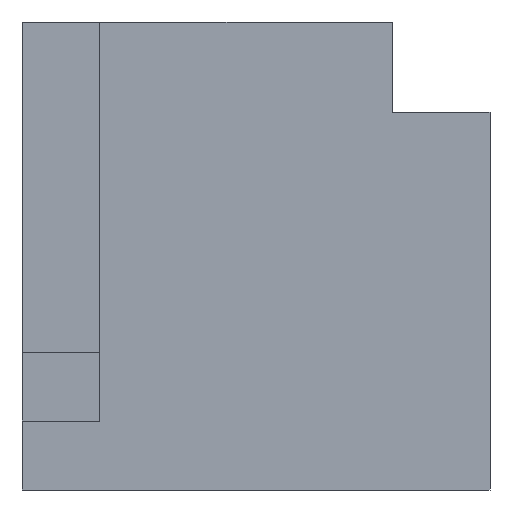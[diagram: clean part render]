
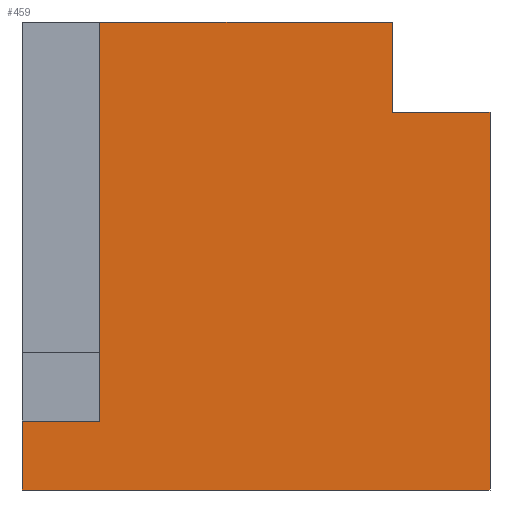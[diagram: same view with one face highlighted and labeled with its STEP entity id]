
A CAD part, left-side view. The second image highlights one B-rep face of the part: STEP entity #459.
In plain terms, the highlighted planar face has unit normal (-1, 0, 0).
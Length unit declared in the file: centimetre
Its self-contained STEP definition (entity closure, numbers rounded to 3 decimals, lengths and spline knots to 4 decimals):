
#16 = CARTESIAN_POINT ( 'NONE',  ( 0., 1000., 1000. ) ) ;
#18 = VECTOR ( 'NONE', #581, 100. ) ;
#26 = VERTEX_POINT ( 'NONE', #856 ) ;
#37 = CARTESIAN_POINT ( 'NONE',  ( 0., 1000., 0. ) ) ;
#42 = EDGE_CURVE ( 'NONE', #763, #729, #1008, .T. ) ;
#46 = LINE ( 'NONE', #205, #877 ) ;
#52 = ORIENTED_EDGE ( 'NONE', *, *, #733, .F. ) ;
#78 = CARTESIAN_POINT ( 'NONE',  ( 0., 1000., 1000. ) ) ;
#90 = EDGE_CURVE ( 'NONE', #973, #26, #872, .T. ) ;
#116 = LINE ( 'NONE', #263, #18 ) ;
#127 = VERTEX_POINT ( 'NONE', #406 ) ;
#142 = DIRECTION ( 'NONE',  ( 0., 0., -1. ) ) ;
#162 = VECTOR ( 'NONE', #486, 100. ) ;
#172 = CARTESIAN_POINT ( 'NONE',  ( 0., 208.3118, 807.3667 ) ) ;
#201 = VERTEX_POINT ( 'NONE', #481 ) ;
#205 = CARTESIAN_POINT ( 'NONE',  ( 0., 1000., 0. ) ) ;
#218 = VECTOR ( 'NONE', #408, 100. ) ;
#245 = EDGE_LOOP ( 'NONE', ( #905, #495, #440, #591, #986, #52, #360, #897 ) ) ;
#263 = CARTESIAN_POINT ( 'NONE',  ( 0., 834.1612, 146.5935 ) ) ;
#268 = EDGE_CURVE ( 'NONE', #201, #393, #964, .T. ) ;
#286 = DIRECTION ( 'NONE',  ( 0., -1., 0. ) ) ;
#293 = VECTOR ( 'NONE', #142, 100. ) ;
#297 = CARTESIAN_POINT ( 'NONE',  ( 0., 0., 807.3667 ) ) ;
#360 = ORIENTED_EDGE ( 'NONE', *, *, #42, .T. ) ;
#386 = LINE ( 'NONE', #297, #834 ) ;
#389 = VECTOR ( 'NONE', #745, 100. ) ;
#393 = VERTEX_POINT ( 'NONE', #592 ) ;
#402 = CARTESIAN_POINT ( 'NONE',  ( 0., 0., 1000. ) ) ;
#406 = CARTESIAN_POINT ( 'NONE',  ( 0., 834.1612, 146.5935 ) ) ;
#408 = DIRECTION ( 'NONE',  ( 0., 0., 1. ) ) ;
#417 = LINE ( 'NONE', #576, #162 ) ;
#440 = ORIENTED_EDGE ( 'NONE', *, *, #865, .T. ) ;
#459 = ADVANCED_FACE ( 'NONE', ( #791 ), #857, .F. ) ;
#481 = CARTESIAN_POINT ( 'NONE',  ( 0., 834.1612, 1000. ) ) ;
#486 = DIRECTION ( 'NONE',  ( 0., 0., 1. ) ) ;
#488 = LINE ( 'NONE', #643, #218 ) ;
#495 = ORIENTED_EDGE ( 'NONE', *, *, #538, .T. ) ;
#521 = CARTESIAN_POINT ( 'NONE',  ( 0., 0., 807.3667 ) ) ;
#528 = DIRECTION ( 'NONE',  ( 0., 0., -1. ) ) ;
#538 = EDGE_CURVE ( 'NONE', #973, #820, #386, .T. ) ;
#576 = CARTESIAN_POINT ( 'NONE',  ( 0., 208.3118, 807.3667 ) ) ;
#581 = DIRECTION ( 'NONE',  ( 0., -1., 0. ) ) ;
#591 = ORIENTED_EDGE ( 'NONE', *, *, #268, .F. ) ;
#592 = CARTESIAN_POINT ( 'NONE',  ( 0., 208.3118, 1000. ) ) ;
#619 = CARTESIAN_POINT ( 'NONE',  ( 0., 1000., 1000. ) ) ;
#621 = DIRECTION ( 'NONE',  ( 1., 0., 0. ) ) ;
#622 = EDGE_CURVE ( 'NONE', #127, #201, #488, .T. ) ;
#638 = DIRECTION ( 'NONE',  ( 0., 0., -1. ) ) ;
#643 = CARTESIAN_POINT ( 'NONE',  ( 0., 834.1612, 146.5935 ) ) ;
#729 = VERTEX_POINT ( 'NONE', #37 ) ;
#733 = EDGE_CURVE ( 'NONE', #763, #127, #116, .T. ) ;
#745 = DIRECTION ( 'NONE',  ( 0., -1., 0. ) ) ;
#763 = VERTEX_POINT ( 'NONE', #979 ) ;
#791 = FACE_OUTER_BOUND ( 'NONE', #245, .T. ) ;
#820 = VERTEX_POINT ( 'NONE', #172 ) ;
#834 = VECTOR ( 'NONE', #930, 100. ) ;
#856 = CARTESIAN_POINT ( 'NONE',  ( 0., 0., 0. ) ) ;
#857 = PLANE ( 'NONE',  #946 ) ;
#865 = EDGE_CURVE ( 'NONE', #820, #393, #417, .T. ) ;
#867 = VECTOR ( 'NONE', #638, 100. ) ;
#872 = LINE ( 'NONE', #402, #867 ) ;
#877 = VECTOR ( 'NONE', #286, 100. ) ;
#897 = ORIENTED_EDGE ( 'NONE', *, *, #993, .T. ) ;
#905 = ORIENTED_EDGE ( 'NONE', *, *, #90, .F. ) ;
#930 = DIRECTION ( 'NONE',  ( 0., 1., 0. ) ) ;
#946 = AXIS2_PLACEMENT_3D ( 'NONE', #78, #621, #528 ) ;
#964 = LINE ( 'NONE', #16, #389 ) ;
#973 = VERTEX_POINT ( 'NONE', #521 ) ;
#979 = CARTESIAN_POINT ( 'NONE',  ( 0., 1000., 146.5935 ) ) ;
#986 = ORIENTED_EDGE ( 'NONE', *, *, #622, .F. ) ;
#993 = EDGE_CURVE ( 'NONE', #729, #26, #46, .T. ) ;
#1008 = LINE ( 'NONE', #619, #293 ) ;
